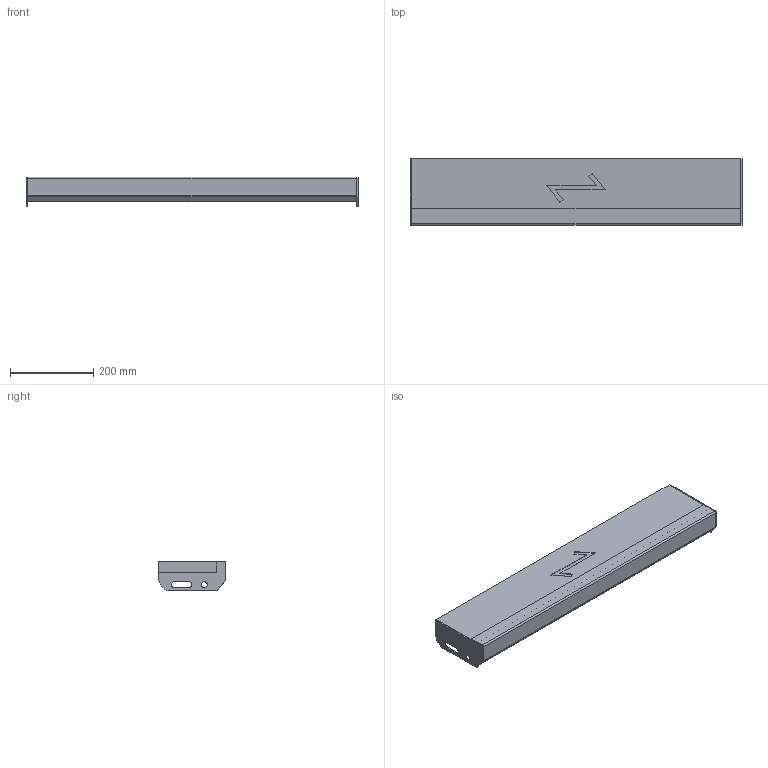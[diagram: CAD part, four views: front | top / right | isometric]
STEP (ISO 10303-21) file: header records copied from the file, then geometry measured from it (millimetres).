
FILE_DESCRIPTION (( 'STEP AP203' ), '1' );
FILE_NAME ('StegTH6-S-nya_steget-800x160.STEP', '2020-03-04T07:42:45', ( '' ), ( '' ), 'SwSTEP 2.0', 'SolidWorks 2019', '' );
FILE_SCHEMA (( 'CONFIG_CONTROL_DESIGN' ));
Length unit declared in the file: millimetre
Products named in the file (5): SW0000039483; StegTH6-S-nya_steget-800x160; SW0000038764; SW0000039244; SW0000038696
Assembly tree (5 placements, depth 3):
  StegTH6-S-nya_steget-800x160
    SW0000039483
      SW0000038764
      SW0000039244
      SW0000038696  x2
Bounding box: 800 x 160 x 72 mm (x, y, z)
Volume: 2992402 mm3; surface area: 471998.4 mm2
Topology: 4 solids, 4 shells, 67 faces, 158 edges, 100 vertices
Faces by surface type: plane 51, cylinder 16
Entity records: 2002 total; most frequent: DIRECTION 261, CARTESIAN_POINT 254, ORIENTED_EDGE 238, EDGE_CURVE 119, VECTOR 99, LINE 99, AXIS2_PLACEMENT_3D 81, VERTEX_POINT 74
